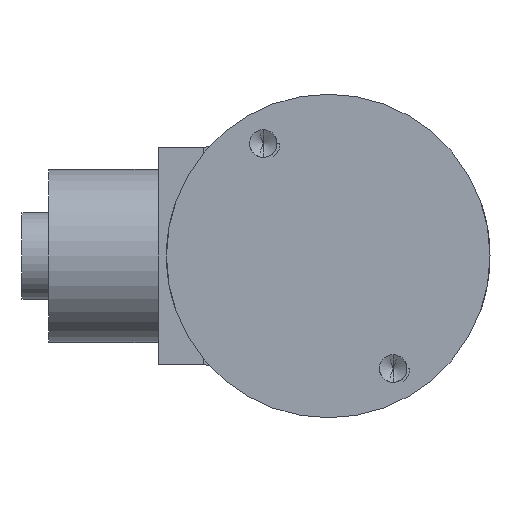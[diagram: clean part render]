
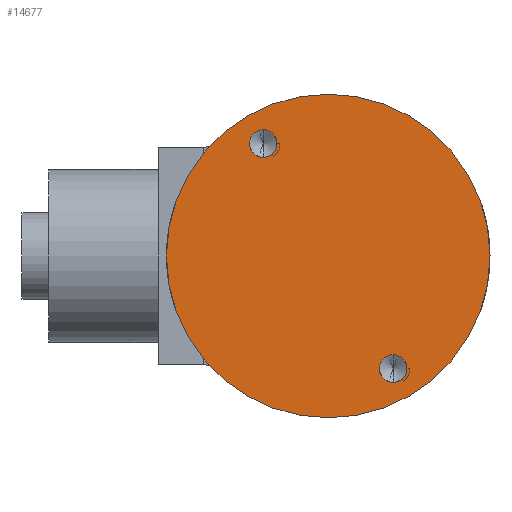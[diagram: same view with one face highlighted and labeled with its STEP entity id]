
A CAD part, front view. The second image highlights one B-rep face of the part: STEP entity #14677.
In plain terms, the highlighted planar face has unit normal (0, -1, 0).
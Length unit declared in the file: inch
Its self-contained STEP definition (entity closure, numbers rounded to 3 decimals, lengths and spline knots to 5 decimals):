
#333 = CARTESIAN_POINT ( 'NONE',  ( 0.375, -1.81, -0.64952 ) ) ;
#778 = DIRECTION ( 'NONE',  ( 0., 0., -1. ) ) ;
#863 = CARTESIAN_POINT ( 'NONE',  ( -0.375, -1.81, 0.57002 ) ) ;
#926 = AXIS2_PLACEMENT_3D ( 'NONE', #8079, #16528, #778 ) ;
#1042 = VERTEX_POINT ( 'NONE', #3841 ) ;
#1295 = FACE_BOUND ( 'NONE', #2706, .T. ) ;
#1481 = DIRECTION ( 'NONE',  ( 0., -1., 0. ) ) ;
#1790 = AXIS2_PLACEMENT_3D ( 'NONE', #333, #9266, #6190 ) ;
#2443 = EDGE_LOOP ( 'NONE', ( #17733, #5859 ) ) ;
#2511 = CARTESIAN_POINT ( 'NONE',  ( 0., -1.81, -0.934 ) ) ;
#2706 = EDGE_LOOP ( 'NONE', ( #18696, #18570, #6506 ) ) ;
#3197 = DIRECTION ( 'NONE',  ( 0., 0., 1. ) ) ;
#3370 = DIRECTION ( 'NONE',  ( 0., 1., 0. ) ) ;
#3651 = DIRECTION ( 'NONE',  ( 0., 0., 1. ) ) ;
#3720 = CIRCLE ( 'NONE', #8622, 0.0795 ) ;
#3841 = CARTESIAN_POINT ( 'NONE',  ( -0.375, -1.81, 0.72902 ) ) ;
#3931 = AXIS2_PLACEMENT_3D ( 'NONE', #4818, #17768, #3197 ) ;
#4436 = VERTEX_POINT ( 'NONE', #13390 ) ;
#4818 = CARTESIAN_POINT ( 'NONE',  ( 0., -1.81, 0. ) ) ;
#5095 = CARTESIAN_POINT ( 'NONE',  ( 0., -1.81, 0. ) ) ;
#5288 = CARTESIAN_POINT ( 'NONE',  ( 0.4545, -1.81, -0.64952 ) ) ;
#5766 = AXIS2_PLACEMENT_3D ( 'NONE', #12785, #18631, #16818 ) ;
#5856 = EDGE_CURVE ( 'Defeatured_0_0+Defeatured_0_20+Defeatured_0_20+Defeatured_0_20', #10618, #14370, #11730, .T. ) ;
#5859 = ORIENTED_EDGE ( 'NONE', *, *, #18918, .F. ) ;
#6190 = DIRECTION ( 'NONE',  ( 0., 0., -1. ) ) ;
#6506 = ORIENTED_EDGE ( 'NONE', *, *, #9080, .F. ) ;
#7600 = CIRCLE ( 'NONE', #18323, 0.934 ) ;
#7954 = ORIENTED_EDGE ( 'NONE', *, *, #17836, .F. ) ;
#8079 = CARTESIAN_POINT ( 'NONE',  ( -0.375, -1.81, 0.64952 ) ) ;
#8352 = AXIS2_PLACEMENT_3D ( 'NONE', #5095, #3370, #3651 ) ;
#8527 = VERTEX_POINT ( 'NONE', #17414 ) ;
#8622 = AXIS2_PLACEMENT_3D ( 'NONE', #11635, #17672, #16241 ) ;
#8674 = CARTESIAN_POINT ( 'NONE',  ( 0.375, -1.81, -0.64952 ) ) ;
#8829 = EDGE_CURVE ( 'Defeatured_0_101+Defeatured_0_20+Defeatured_0_99+Defeatured_0_98', #4436, #14867, #15983, .T. ) ;
#8914 = CIRCLE ( 'NONE', #926, 0.0795 ) ;
#9080 = EDGE_CURVE ( 'Defeatured_0_94+Defeatured_0_20+Defeatured_0_92+Defeatured_0_91', #1042, #14214, #8914, .T. ) ;
#9122 = ORIENTED_EDGE ( 'NONE', *, *, #10527, .F. ) ;
#9266 = DIRECTION ( 'NONE',  ( 0., -1., 0. ) ) ;
#9320 = EDGE_CURVE ( 'Defeatured_0_94+Defeatured_0_20+Defeatured_0_92+Defeatured_0_91', #12077, #1042, #3720, .T. ) ;
#9621 = CARTESIAN_POINT ( 'NONE',  ( -0.2955, -1.81, 0.64952 ) ) ;
#10023 = DIRECTION ( 'NONE',  ( 0., 0., -1. ) ) ;
#10527 = EDGE_CURVE ( 'Defeatured_0_101+Defeatured_0_20+Defeatured_0_99+Defeatured_0_98', #14867, #8527, #13974, .T. ) ;
#10566 = PLANE ( 'NONE',  #3931 ) ;
#10618 = VERTEX_POINT ( 'NONE', #13079 ) ;
#11635 = CARTESIAN_POINT ( 'NONE',  ( -0.375, -1.81, 0.64952 ) ) ;
#11730 = CIRCLE ( 'NONE', #8352, 0.934 ) ;
#11904 = CARTESIAN_POINT ( 'NONE',  ( 0., -1.81, 0. ) ) ;
#12007 = FACE_OUTER_BOUND ( 'NONE', #2443, .T. ) ;
#12077 = VERTEX_POINT ( 'NONE', #9621 ) ;
#12785 = CARTESIAN_POINT ( 'NONE',  ( -0.375, -1.81, 0.64952 ) ) ;
#12970 = DIRECTION ( 'NONE',  ( 0., 1., 0. ) ) ;
#13003 = FACE_BOUND ( 'NONE', #13246, .T. ) ;
#13079 = CARTESIAN_POINT ( 'NONE',  ( 0., -1.81, 0.934 ) ) ;
#13187 = CARTESIAN_POINT ( 'NONE',  ( 0.375, -1.81, -0.64952 ) ) ;
#13246 = EDGE_LOOP ( 'NONE', ( #9122, #15099, #7954 ) ) ;
#13390 = CARTESIAN_POINT ( 'NONE',  ( 0.375, -1.81, -0.72902 ) ) ;
#13974 = CIRCLE ( 'NONE', #15201, 0.0795 ) ;
#14146 = AXIS2_PLACEMENT_3D ( 'NONE', #13187, #1481, #14896 ) ;
#14214 = VERTEX_POINT ( 'NONE', #863 ) ;
#14370 = VERTEX_POINT ( 'NONE', #2511 ) ;
#14677 = ADVANCED_FACE ( 'Defeatured_0_20', ( #13003, #1295, #12007 ), #10566, .F. ) ;
#14867 = VERTEX_POINT ( 'NONE', #5288 ) ;
#14896 = DIRECTION ( 'NONE',  ( 0., 0., -1. ) ) ;
#15099 = ORIENTED_EDGE ( 'NONE', *, *, #8829, .F. ) ;
#15201 = AXIS2_PLACEMENT_3D ( 'NONE', #8674, #17309, #10023 ) ;
#15861 = CIRCLE ( 'NONE', #5766, 0.0795 ) ;
#15983 = CIRCLE ( 'NONE', #14146, 0.0795 ) ;
#16128 = DIRECTION ( 'NONE',  ( 0., 0., 1. ) ) ;
#16241 = DIRECTION ( 'NONE',  ( 0., 0., -1. ) ) ;
#16528 = DIRECTION ( 'NONE',  ( 0., -1., 0. ) ) ;
#16703 = EDGE_CURVE ( 'Defeatured_0_94+Defeatured_0_20+Defeatured_0_92+Defeatured_0_91', #14214, #12077, #15861, .T. ) ;
#16818 = DIRECTION ( 'NONE',  ( 0., 0., -1. ) ) ;
#17121 = CIRCLE ( 'NONE', #1790, 0.0795 ) ;
#17309 = DIRECTION ( 'NONE',  ( 0., -1., 0. ) ) ;
#17414 = CARTESIAN_POINT ( 'NONE',  ( 0.375, -1.81, -0.57002 ) ) ;
#17672 = DIRECTION ( 'NONE',  ( 0., -1., 0. ) ) ;
#17733 = ORIENTED_EDGE ( 'NONE', *, *, #5856, .F. ) ;
#17768 = DIRECTION ( 'NONE',  ( 0., 1., 0. ) ) ;
#17836 = EDGE_CURVE ( 'Defeatured_0_101+Defeatured_0_20+Defeatured_0_99+Defeatured_0_98', #8527, #4436, #17121, .T. ) ;
#18323 = AXIS2_PLACEMENT_3D ( 'NONE', #11904, #12970, #16128 ) ;
#18570 = ORIENTED_EDGE ( 'NONE', *, *, #16703, .F. ) ;
#18631 = DIRECTION ( 'NONE',  ( 0., -1., 0. ) ) ;
#18696 = ORIENTED_EDGE ( 'NONE', *, *, #9320, .F. ) ;
#18918 = EDGE_CURVE ( 'Defeatured_0_0+Defeatured_0_20+Defeatured_0_20+Defeatured_0_20', #14370, #10618, #7600, .T. ) ;
